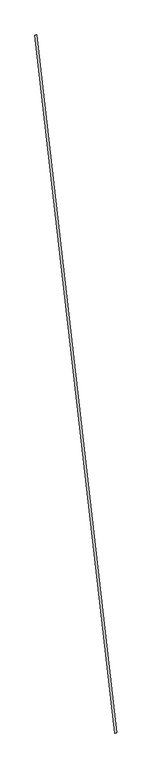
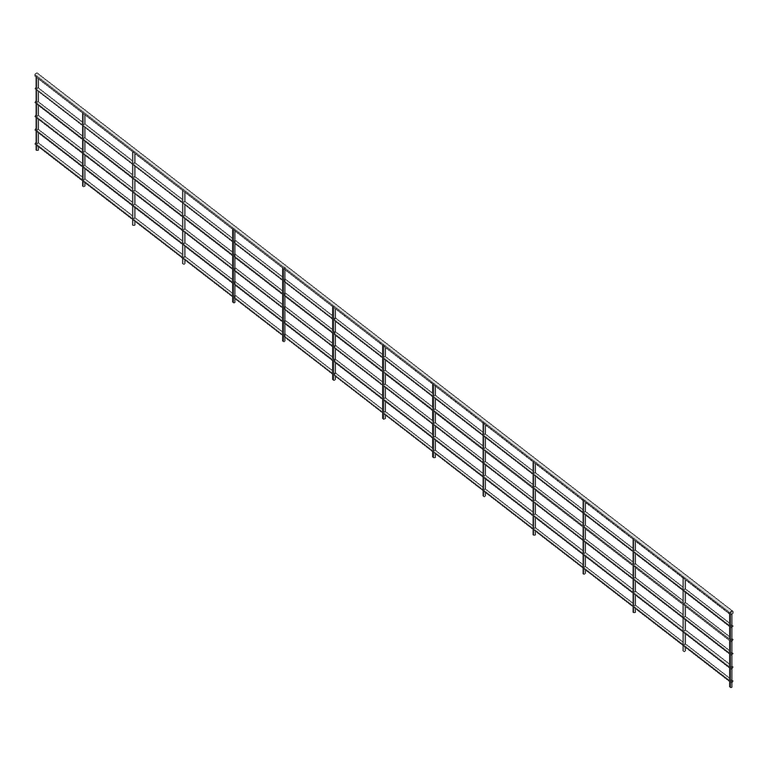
"""IFC4 building model written with IfcOpenShell, lengths in millimetres: railing geometry, r パイプ H1100."""

import ifcopenshell
import ifcopenshell.guid

model = None  # the IFC model being written
_history = None  # IfcOwnerHistory: only IFC2X3 demands one
_inside = {}  # id of a spatial element -> (the spatial element, [elements in it])
_under = {}  # id of a project, library or spatial element -> (it, [spatial elements below it])
_declared = {}  # id of a project -> (the project, [libraries it declares])
_typed = {}  # id of a type object -> (the type object, [elements of that type])
_made_of = {}  # id of a material, layer set ... -> (it, [elements and type objects made of it])


def new_model(schema):
    """Start an empty IFC model of exactly this schema.

    Asked for "IFC4X3", IfcOpenShell would pick the latest addendum, in which some entities
    have other attributes; the version numbers below select the first issue.
    IFC2X3 requires an IfcOwnerHistory on every rooted entity: one is made here for all.
    """
    global model, _history
    if schema == "IFC4X3":
        model = ifcopenshell.file(schema_version=(4, 3, 0, 0))
    else:
        model = ifcopenshell.file(schema=schema)
    _inside.clear()
    _under.clear()
    _declared.clear()
    _typed.clear()
    _made_of.clear()
    _history = None
    if model.schema == "IFC2X3":
        org = make("IfcOrganization", Name="unknown")
        user = make(
            "IfcPersonAndOrganization",
            ThePerson=make("IfcPerson", FamilyName="unknown"),
            TheOrganization=org,
        )
        app = make(
            "IfcApplication",
            ApplicationDeveloper=org,
            Version="unknown",
            ApplicationFullName="unknown",
            ApplicationIdentifier="unknown",
        )
        _history = make(
            "IfcOwnerHistory",
            OwningUser=user,
            OwningApplication=app,
            ChangeAction="ADDED",
            CreationDate=0,
        )
    return model


def make(cls, **values):
    """One entity of the class cls with the attributes given. An attribute that is None is left unset."""
    return model.create_entity(
        cls, **{name: value for name, value in values.items() if value is not None}
    )


def rooted(cls, **values):
    """An entity with a GlobalId (a new one), such as an element, a storey or a relation."""
    return make(cls, GlobalId=ifcopenshell.guid.new(), OwnerHistory=_history, **values)


def si_unit(unit_type, name, prefix=None):
    """IfcSIUnit, for example si_unit("LENGTHUNIT", "METRE", prefix="MILLI")."""
    return make("IfcSIUnit", UnitType=unit_type, Prefix=prefix, Name=name)


def assignment(units):
    """IfcUnitAssignment: the units of a project."""
    return None if units is None else make("IfcUnitAssignment", Units=units)


def point(xyz):
    """IfcCartesianPoint."""
    return None if xyz is None else make("IfcCartesianPoint", Coordinates=xyz)


def direction(xyz):
    """IfcDirection."""
    return None if xyz is None else make("IfcDirection", DirectionRatios=xyz)


def frame(location, z_axis=None, x_axis=None):
    """IfcAxis2Placement3D, a coordinate frame: its origin and axes. An axis left out is left unset."""
    return make(
        "IfcAxis2Placement3D",
        Location=point(location),
        Axis=direction(z_axis),
        RefDirection=direction(x_axis),
    )


def frame_2d(location, x_axis=None):
    """IfcAxis2Placement2D, a coordinate frame in the plane: its origin and x axis."""
    return make(
        "IfcAxis2Placement2D", Location=point(location), RefDirection=direction(x_axis)
    )


def origin():
    """The frame at (0, 0, 0) with its axes left unset."""
    return frame((0.0, 0.0, 0.0))


def place(relative_to, where):
    """IfcLocalPlacement: puts the frame where relative to a parent placement (None: the world)."""
    return make(
        "IfcLocalPlacement", PlacementRelTo=relative_to, RelativePlacement=where
    )


def context(
    kind, dimensions, precision=None, world=None, true_north=None, identifier=None
):
    """IfcGeometricRepresentationContext, for example the 3D "Model" context."""
    return make(
        "IfcGeometricRepresentationContext",
        ContextIdentifier=identifier,
        ContextType=kind,
        CoordinateSpaceDimension=dimensions,
        Precision=precision,
        WorldCoordinateSystem=world,
        TrueNorth=true_north,
    )


def project(units=None, contexts=None):
    """IfcProject with its units and contexts."""
    return rooted(
        "IfcProject",
        Name="project",
        RepresentationContexts=contexts,
        UnitsInContext=assignment(units),
    )


def spatial(cls, under=None, at=None, **own):
    """A site, building, storey or space (cls), placed at a placement, below another one or the project."""
    s = rooted(cls, ObjectPlacement=at, **own)
    if under is not None:
        _under.setdefault(under.id(), (under, []))[1].append(s)
    return s


def circle_curve(where, radius):
    """IfcCircle in the frame where."""
    return make("IfcCircle", Position=where, Radius=radius)


def trimmed(basis, trim1, trim2, sense, master):
    """IfcTrimmedCurve: the piece of a basis curve between two trims."""
    return make(
        "IfcTrimmedCurve",
        BasisCurve=basis,
        Trim1=trim1,
        Trim2=trim2,
        SenseAgreement=sense,
        MasterRepresentation=master,
    )


def segment(curve, same_sense, transition):
    """IfcCompositeCurveSegment."""
    return make(
        "IfcCompositeCurveSegment",
        Transition=transition,
        SameSense=same_sense,
        ParentCurve=curve,
    )


def composite_curve(segments, self_intersect=None):
    """IfcCompositeCurve: segments joined end to end."""
    return make("IfcCompositeCurve", Segments=segments, SelfIntersect=self_intersect)


def outline(outer, holes=None, kind="AREA"):
    """IfcArbitraryClosedProfileDef: a profile drawn as a closed curve; with holes, ...WithVoids."""
    if holes is None:
        return make("IfcArbitraryClosedProfileDef", ProfileType=kind, OuterCurve=outer)
    return make(
        "IfcArbitraryProfileDefWithVoids",
        ProfileType=kind,
        OuterCurve=outer,
        InnerCurves=holes,
    )


def extrude(swept, where, along, depth):
    """IfcExtrudedAreaSolid: the profile swept, set in the frame where, extruded along a direction by depth."""
    return make(
        "IfcExtrudedAreaSolid",
        SweptArea=swept,
        Position=where,
        ExtrudedDirection=direction(along),
        Depth=depth,
    )


def shape(context_of_items, identifier, shape_type, items):
    """IfcShapeRepresentation: the items that make up one representation, for example the "Body"."""
    return make(
        "IfcShapeRepresentation",
        ContextOfItems=context_of_items,
        RepresentationIdentifier=identifier,
        RepresentationType=shape_type,
        Items=items,
    )


def source(mapping_origin, context_of_items, identifier, shape_type, items):
    """IfcRepresentationMap: a shape defined once, which mapped items show again and again."""
    return make(
        "IfcRepresentationMap",
        MappingOrigin=mapping_origin,
        MappedRepresentation=shape(context_of_items, identifier, shape_type, items),
    )


def transform(
    local_origin,
    x_axis=None,
    y_axis=None,
    z_axis=None,
    scale=None,
    scale2=None,
    scale3=None,
    uniform=True,
):
    """IfcCartesianTransformationOperator3D, or its non-uniform kind. x_axis, y_axis, z_axis: its Axis1, 2, 3."""
    if uniform:
        return make(
            "IfcCartesianTransformationOperator3D",
            Axis1=direction(x_axis),
            Axis2=direction(y_axis),
            LocalOrigin=point(local_origin),
            Scale=scale,
            Axis3=direction(z_axis),
        )
    return make(
        "IfcCartesianTransformationOperator3DnonUniform",
        Axis1=direction(x_axis),
        Axis2=direction(y_axis),
        LocalOrigin=point(local_origin),
        Scale=scale,
        Axis3=direction(z_axis),
        Scale2=scale2,
        Scale3=scale3,
    )


def mapped(mapping_source, mapping_target):
    """IfcMappedItem: shows the shape of a source again, moved by a transform."""
    return make(
        "IfcMappedItem", MappingSource=mapping_source, MappingTarget=mapping_target
    )


def made_of(thing, what):
    """Note that an element or type object is made of a material, layer set ...; save() writes the relation."""
    if what is not None:
        _made_of.setdefault(what.id(), (what, []))[1].append(thing)
    return thing


def element(
    cls,
    number,
    at=None,
    inside=None,
    cuts=None,
    type_object=None,
    material=None,
    context=None,
    identifier="Body",
    shape_type=None,
    held_by="IfcProductDefinitionShape",
    body=None,
    shapes=None,
    **own,
):
    """One element of the class cls, such as IfcWall. Its Tag is "e" and its number.

    at: its placement. inside: the storey or other place that contains it. cuts: it is an
    opening in that element (IfcRelVoidsElement). A single representation is given by context,
    identifier, shape_type and body (its items); several are given by shapes. held_by: the class
    of the entity that holds the representations. save() writes the other relations.
    """
    e = rooted(cls, Tag="e%d" % number, ObjectPlacement=at, **own)
    if body is not None:
        shapes = [shape(context, identifier, shape_type, body)]
    if shapes is not None:
        e.Representation = make(held_by, Representations=shapes)
    if inside is not None:
        _inside.setdefault(inside.id(), (inside, []))[1].append(e)
    if cuts is not None:
        rooted(
            "IfcRelVoidsElement", RelatingBuildingElement=cuts, RelatedOpeningElement=e
        )
    if type_object is not None:
        _typed.setdefault(type_object.id(), (type_object, []))[1].append(e)
    return made_of(e, material)


def aggregate(whole, parts):
    """IfcRelAggregates: a whole, such as a stair, and the parts it consists of."""
    return rooted("IfcRelAggregates", RelatingObject=whole, RelatedObjects=parts)


def save(model, path):
    """Write the relations noted so far, then the file.

    IfcRelAggregates (storeys below a building ...), IfcRelContainedInSpatialStructure (elements
    in a storey), IfcRelDefinesByType, IfcRelAssociatesMaterial and IfcRelDeclares: one each for
    every whole, place, type object, material and project.
    """
    for whole, parts in _under.values():
        aggregate(whole, parts)
    for where, things in _inside.values():
        rooted(
            "IfcRelContainedInSpatialStructure",
            RelatedElements=things,
            RelatingStructure=where,
        )
    for kind, things in _typed.values():
        rooted("IfcRelDefinesByType", RelatedObjects=things, RelatingType=kind)
    for what, things in _made_of.values():
        rooted("IfcRelAssociatesMaterial", RelatedObjects=things, RelatingMaterial=what)
    for by, libraries in _declared.values():
        rooted("IfcRelDeclares", RelatingContext=by, RelatedDefinitions=libraries)
    model.write(path)


def railing_579f45c8(model_context):
    return source(origin(), model_context, "Body", "SweptSolid", [
        extrude(outline(composite_curve([segment(trimmed(circle_curve(frame_2d((0.0, 20.0)), 20.0), [point((-20.0, 20.0))], [point((19.9999999, 20.0))], False, "CARTESIAN"), True, "CONTINUOUS"), segment(trimmed(circle_curve(frame_2d((0.0, 20.0)), 20.0), [point((19.9999999, 20.0))], [point((-20.0, 20.0))], False, "CARTESIAN"), True, "CONTINUOUS")], self_intersect=False)), frame((2262.3504884, -3447.4744365, 29700.0), z_axis=(-0.1135465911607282, 0.9935326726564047, 0.0), x_axis=(0.9935326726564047, 0.1135465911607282, 0.0)), (0.0, 0.0, 1.0), 13889.8300779),
        extrude(outline(composite_curve([segment(trimmed(circle_curve(frame_2d((0.0, 15.0)), 15.0), [point((-15.0, 15.0))], [point((15.0, 15.0))], False, "CARTESIAN"), True, "CONTINUOUS"), segment(trimmed(circle_curve(frame_2d((0.0, 15.0)), 15.0), [point((15.0, 15.0))], [point((-15.0, 15.0))], False, "CARTESIAN"), True, "CONTINUOUS")], self_intersect=False)), frame((2262.3504884, -3447.4744365, 29500.0), z_axis=(-0.1135465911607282, 0.9935326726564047, 0.0), x_axis=(0.9935326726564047, 0.1135465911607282, 0.0)), (0.0, 0.0, 1.0), 13889.8300779),
        extrude(outline(composite_curve([segment(trimmed(circle_curve(frame_2d((0.0, 15.0)), 15.0), [point((-15.0, 15.0))], [point((15.0, 15.0))], False, "CARTESIAN"), True, "CONTINUOUS"), segment(trimmed(circle_curve(frame_2d((0.0, 15.0)), 15.0), [point((15.0, 15.0))], [point((-15.0, 15.0))], False, "CARTESIAN"), True, "CONTINUOUS")], self_intersect=False)), frame((2262.3504884, -3447.4744365, 29300.0), z_axis=(-0.1135465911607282, 0.9935326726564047, 0.0), x_axis=(0.9935326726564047, 0.1135465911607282, 0.0)), (0.0, 0.0, 1.0), 13889.8300779),
        extrude(outline(composite_curve([segment(trimmed(circle_curve(frame_2d((0.0, 15.0)), 15.0), [point((-15.0, 15.0))], [point((15.0, 15.0))], False, "CARTESIAN"), True, "CONTINUOUS"), segment(trimmed(circle_curve(frame_2d((0.0, 15.0)), 15.0), [point((15.0, 15.0))], [point((-15.0, 15.0))], False, "CARTESIAN"), True, "CONTINUOUS")], self_intersect=False)), frame((2262.3504884, -3447.4744365, 29100.0), z_axis=(-0.1135465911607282, 0.9935326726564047, 0.0), x_axis=(0.9935326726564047, 0.1135465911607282, 0.0)), (0.0, 0.0, 1.0), 13889.8300779),
        extrude(outline(composite_curve([segment(trimmed(circle_curve(frame_2d((0.0, 15.0)), 15.0), [point((-15.0, 15.0))], [point((15.0, 15.0))], False, "CARTESIAN"), True, "CONTINUOUS"), segment(trimmed(circle_curve(frame_2d((0.0, 15.0)), 15.0), [point((15.0, 15.0))], [point((-15.0, 15.0))], False, "CARTESIAN"), True, "CONTINUOUS")], self_intersect=False)), frame((2262.3504884, -3447.4744365, 28900.0), z_axis=(-0.1135465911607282, 0.9935326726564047, 0.0), x_axis=(0.9935326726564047, 0.1135465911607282, 0.0)), (0.0, 0.0, 1.0), 13889.8300779),
        extrude(outline(composite_curve([segment(trimmed(circle_curve(frame_2d((0.0, 15.0)), 15.0), [point((-15.0, 15.0))], [point((15.0, 15.0))], False, "CARTESIAN"), True, "CONTINUOUS"), segment(trimmed(circle_curve(frame_2d((0.0, 15.0)), 15.0), [point((15.0, 15.0))], [point((-15.0, 15.0))], False, "CARTESIAN"), True, "CONTINUOUS")], self_intersect=False)), frame((2262.3504884, -3447.4744365, 28700.0), z_axis=(-0.1135465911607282, 0.9935326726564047, 0.0), x_axis=(0.9935326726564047, 0.1135465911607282, 0.0)), (0.0, 0.0, 1.0), 13889.8300779),
        extrude(outline(composite_curve([segment(trimmed(circle_curve(frame_2d((792.4995128, 9413.7215994)), 12.5), [point((780.0803544, 9412.302267))], [point((804.9186713, 9415.1409318))], False, "CARTESIAN"), True, "CONTINUOUS"), segment(trimmed(circle_curve(frame_2d((792.4995128, 9413.7215994)), 12.5), [point((804.9186713, 9415.1409318))], [point((780.0803544, 9412.302267))], False, "CARTESIAN"), True, "CONTINUOUS")], self_intersect=False)), frame((0.0, 0.0, 28600.0), z_axis=(0.0, 0.0, 1.0), x_axis=(1.0, 0.0, 0.0)), (0.0, 0.0, 1.0), 1060.0),
        extrude(outline(composite_curve([segment(trimmed(circle_curve(frame_2d((906.046104, 8420.1889268)), 12.5), [point((893.6269456, 8418.7695944))], [point((918.4652624, 8421.6082592))], False, "CARTESIAN"), True, "CONTINUOUS"), segment(trimmed(circle_curve(frame_2d((906.046104, 8420.1889268)), 12.5), [point((918.4652624, 8421.6082592))], [point((893.6269456, 8418.7695944))], False, "CARTESIAN"), True, "CONTINUOUS")], self_intersect=False)), frame((0.0, 0.0, 28600.0), z_axis=(0.0, 0.0, 1.0), x_axis=(1.0, 0.0, 0.0)), (0.0, 0.0, 1.0), 1060.0),
        extrude(outline(composite_curve([segment(trimmed(circle_curve(frame_2d((1019.5926952, 7426.6562541)), 12.5), [point((1007.1735368, 7425.2369217))], [point((1032.0118536, 7428.0755865))], False, "CARTESIAN"), True, "CONTINUOUS"), segment(trimmed(circle_curve(frame_2d((1019.5926952, 7426.6562541)), 12.5), [point((1032.0118536, 7428.0755865))], [point((1007.1735368, 7425.2369217))], False, "CARTESIAN"), True, "CONTINUOUS")], self_intersect=False)), frame((0.0, 0.0, 28600.0), z_axis=(0.0, 0.0, 1.0), x_axis=(1.0, 0.0, 0.0)), (0.0, 0.0, 1.0), 1060.0),
        extrude(outline(composite_curve([segment(trimmed(circle_curve(frame_2d((1133.1392863, 6433.1235814)), 12.5), [point((1120.7201279, 6431.7042491))], [point((1145.5584447, 6434.5429138))], False, "CARTESIAN"), True, "CONTINUOUS"), segment(trimmed(circle_curve(frame_2d((1133.1392863, 6433.1235814)), 12.5), [point((1145.5584447, 6434.5429138))], [point((1120.7201279, 6431.7042491))], False, "CARTESIAN"), True, "CONTINUOUS")], self_intersect=False)), frame((0.0, 0.0, 28600.0), z_axis=(0.0, 0.0, 1.0), x_axis=(1.0, 0.0, 0.0)), (0.0, 0.0, 1.0), 1060.0),
        extrude(outline(composite_curve([segment(trimmed(circle_curve(frame_2d((1246.6858775, 5439.5909088)), 12.5), [point((1234.2667191, 5438.1715764))], [point((1259.1050359, 5441.0102412))], False, "CARTESIAN"), True, "CONTINUOUS"), segment(trimmed(circle_curve(frame_2d((1246.6858775, 5439.5909088)), 12.5), [point((1259.1050359, 5441.0102412))], [point((1234.2667191, 5438.1715764))], False, "CARTESIAN"), True, "CONTINUOUS")], self_intersect=False)), frame((0.0, 0.0, 28600.0), z_axis=(0.0, 0.0, 1.0), x_axis=(1.0, 0.0, 0.0)), (0.0, 0.0, 1.0), 1060.0),
        extrude(outline(composite_curve([segment(trimmed(circle_curve(frame_2d((1360.2324686, 4446.0582361)), 12.5), [point((1347.8133102, 4444.6389037))], [point((1372.6516271, 4447.4775685))], False, "CARTESIAN"), True, "CONTINUOUS"), segment(trimmed(circle_curve(frame_2d((1360.2324686, 4446.0582361)), 12.5), [point((1372.6516271, 4447.4775685))], [point((1347.8133102, 4444.6389037))], False, "CARTESIAN"), True, "CONTINUOUS")], self_intersect=False)), frame((0.0, 0.0, 28600.0), z_axis=(0.0, 0.0, 1.0), x_axis=(1.0, 0.0, 0.0)), (0.0, 0.0, 1.0), 1060.0),
        extrude(outline(composite_curve([segment(trimmed(circle_curve(frame_2d((1473.7790598, 3452.5255635)), 12.5), [point((1461.3599014, 3451.1062311))], [point((1486.1982182, 3453.9448959))], False, "CARTESIAN"), True, "CONTINUOUS"), segment(trimmed(circle_curve(frame_2d((1473.7790598, 3452.5255635)), 12.5), [point((1486.1982182, 3453.9448959))], [point((1461.3599014, 3451.1062311))], False, "CARTESIAN"), True, "CONTINUOUS")], self_intersect=False)), frame((0.0, 0.0, 28600.0), z_axis=(0.0, 0.0, 1.0), x_axis=(1.0, 0.0, 0.0)), (0.0, 0.0, 1.0), 1060.0),
        extrude(outline(composite_curve([segment(trimmed(circle_curve(frame_2d((1587.325651, 2458.9928908)), 12.5), [point((1574.9064926, 2457.5735584))], [point((1599.7448094, 2460.4122232))], False, "CARTESIAN"), True, "CONTINUOUS"), segment(trimmed(circle_curve(frame_2d((1587.325651, 2458.9928908)), 12.5), [point((1599.7448094, 2460.4122232))], [point((1574.9064926, 2457.5735584))], False, "CARTESIAN"), True, "CONTINUOUS")], self_intersect=False)), frame((0.0, 0.0, 28600.0), z_axis=(0.0, 0.0, 1.0), x_axis=(1.0, 0.0, 0.0)), (0.0, 0.0, 1.0), 1060.0),
        extrude(outline(composite_curve([segment(trimmed(circle_curve(frame_2d((1700.8722421, 1465.4602182)), 12.5), [point((1688.4530837, 1464.0408858))], [point((1713.2914005, 1466.8795506))], False, "CARTESIAN"), True, "CONTINUOUS"), segment(trimmed(circle_curve(frame_2d((1700.8722421, 1465.4602182)), 12.5), [point((1713.2914005, 1466.8795506))], [point((1688.4530837, 1464.0408858))], False, "CARTESIAN"), True, "CONTINUOUS")], self_intersect=False)), frame((0.0, 0.0, 28600.0), z_axis=(0.0, 0.0, 1.0), x_axis=(1.0, 0.0, 0.0)), (0.0, 0.0, 1.0), 1060.0),
        extrude(outline(composite_curve([segment(trimmed(circle_curve(frame_2d((1814.4188333, 471.9275455)), 12.5), [point((1801.9996749, 470.5082131))], [point((1826.8379917, 473.3468779))], False, "CARTESIAN"), True, "CONTINUOUS"), segment(trimmed(circle_curve(frame_2d((1814.4188333, 471.9275455)), 12.5), [point((1826.8379917, 473.3468779))], [point((1801.9996749, 470.5082131))], False, "CARTESIAN"), True, "CONTINUOUS")], self_intersect=False)), frame((0.0, 0.0, 28600.0), z_axis=(0.0, 0.0, 1.0), x_axis=(1.0, 0.0, 0.0)), (0.0, 0.0, 1.0), 1060.0),
        extrude(outline(composite_curve([segment(trimmed(circle_curve(frame_2d((1927.9654245, -521.6051271)), 12.5), [point((1915.546266, -523.0244595))], [point((1940.3845829, -520.1857948))], False, "CARTESIAN"), True, "CONTINUOUS"), segment(trimmed(circle_curve(frame_2d((1927.9654245, -521.6051271)), 12.5), [point((1940.3845829, -520.1857948))], [point((1915.546266, -523.0244595))], False, "CARTESIAN"), True, "CONTINUOUS")], self_intersect=False)), frame((0.0, 0.0, 28600.0), z_axis=(0.0, 0.0, 1.0), x_axis=(1.0, 0.0, 0.0)), (0.0, 0.0, 1.0), 1060.0),
        extrude(outline(composite_curve([segment(trimmed(circle_curve(frame_2d((2041.5120156, -1515.1377998)), 12.5), [point((2029.0928572, -1516.5571322))], [point((2053.931174, -1513.7184674))], False, "CARTESIAN"), True, "CONTINUOUS"), segment(trimmed(circle_curve(frame_2d((2041.5120156, -1515.1377998)), 12.5), [point((2053.931174, -1513.7184674))], [point((2029.0928572, -1516.5571322))], False, "CARTESIAN"), True, "CONTINUOUS")], self_intersect=False)), frame((0.0, 0.0, 28600.0), z_axis=(0.0, 0.0, 1.0), x_axis=(1.0, 0.0, 0.0)), (0.0, 0.0, 1.0), 1060.0),
        extrude(outline(composite_curve([segment(trimmed(circle_curve(frame_2d((2155.0586068, -2508.6704725)), 12.5), [point((2142.6394484, -2510.0898048))], [point((2167.4777652, -2507.2511401))], False, "CARTESIAN"), True, "CONTINUOUS"), segment(trimmed(circle_curve(frame_2d((2155.0586068, -2508.6704725)), 12.5), [point((2167.4777652, -2507.2511401))], [point((2142.6394484, -2510.0898048))], False, "CARTESIAN"), True, "CONTINUOUS")], self_intersect=False)), frame((0.0, 0.0, 28600.0), z_axis=(0.0, 0.0, 1.0), x_axis=(1.0, 0.0, 0.0)), (0.0, 0.0, 1.0), 1060.0),
        extrude(outline(composite_curve([segment(trimmed(circle_curve(frame_2d((686.5928996, 10340.4044649)), 12.5), [point((674.1737412, 10338.9851325))], [point((699.0120581, 10341.8237973))], False, "CARTESIAN"), True, "CONTINUOUS"), segment(trimmed(circle_curve(frame_2d((686.5928996, 10340.4044649)), 12.5), [point((699.0120581, 10341.8237973))], [point((674.1737412, 10338.9851325))], False, "CARTESIAN"), True, "CONTINUOUS")], self_intersect=False)), frame((0.0, 0.0, 28600.0), z_axis=(0.0, 0.0, 1.0), x_axis=(1.0, 0.0, 0.0)), (0.0, 0.0, 1.0), 1060.0),
        extrude(outline(composite_curve([segment(trimmed(circle_curve(frame_2d((2260.96522, -3435.3533379)), 12.5), [point((2248.5460616, -3436.7726703))], [point((2273.3843784, -3433.9340055))], False, "CARTESIAN"), True, "CONTINUOUS"), segment(trimmed(circle_curve(frame_2d((2260.96522, -3435.3533379)), 12.5), [point((2273.3843784, -3433.9340055))], [point((2248.5460616, -3436.7726703))], False, "CARTESIAN"), True, "CONTINUOUS")], self_intersect=False)), frame((0.0, 0.0, 28600.0), z_axis=(0.0, 0.0, 1.0), x_axis=(1.0, 0.0, 0.0)), (0.0, 0.0, 1.0), 1060.0),
    ])


if __name__ == "__main__":
    model = new_model("IFC4")
    model_context = context("Model", 3, world=origin())
    ifc_project = project(units=[si_unit("LENGTHUNIT", "METRE", prefix="MILLI")], contexts=[model_context])
    site = spatial("IfcSite", under=ifc_project)
    building = spatial("IfcBuilding", under=site)
    placement = place(None, origin())
    railing_shape = railing_579f45c8(model_context)
    element("IfcRailing", 1, ObjectType="r パイプ H1100", at=placement, inside=building, context=model_context, shape_type="MappedRepresentation", body=[
        mapped(railing_shape, transform((0.0, 0.0, 0.0), x_axis=(1.0, 0.0, 0.0), y_axis=(0.0, 1.0, 0.0), z_axis=(0.0, 0.0, 1.0))),
    ])
    save(model, "model.ifc")
